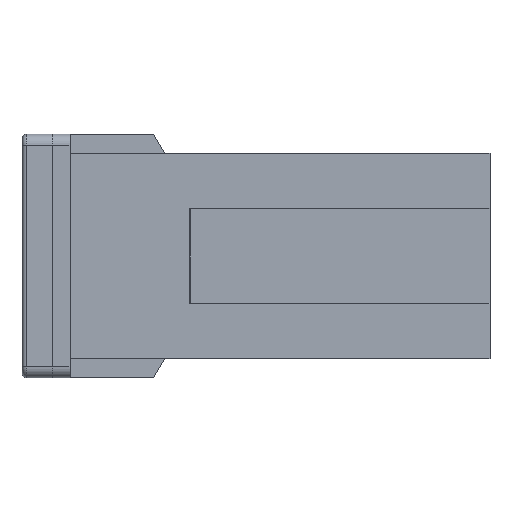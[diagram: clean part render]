
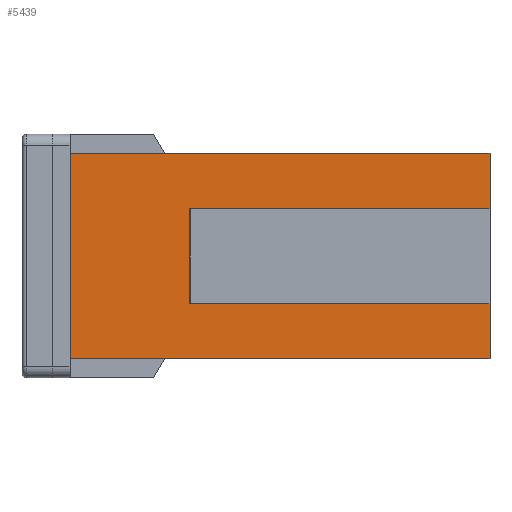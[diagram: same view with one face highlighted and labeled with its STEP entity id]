
A CAD part, left-side view. The second image highlights one B-rep face of the part: STEP entity #5439.
In plain terms, the highlighted planar face has unit normal (-1, 0, 0).
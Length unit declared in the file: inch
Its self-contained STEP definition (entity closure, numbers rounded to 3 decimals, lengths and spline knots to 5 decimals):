
#435=FACE_OUTER_BOUND('',#743,.T.);
#743=EDGE_LOOP('',(#4653,#4654,#4655,#4656,#4657,#4658,#4659,#4660));
#1208=LINE('',#8938,#1800);
#1294=LINE('',#9121,#1886);
#1298=LINE('',#9133,#1890);
#1336=LINE('',#9227,#1928);
#1424=LINE('',#9400,#2016);
#1428=LINE('',#9409,#2020);
#1429=LINE('',#9411,#2021);
#1430=LINE('',#9412,#2022);
#1800=VECTOR('',#6276,0.3937);
#1886=VECTOR('',#6422,0.3937);
#1890=VECTOR('',#6430,0.3937);
#1928=VECTOR('',#6518,0.3937);
#2016=VECTOR('',#6672,0.3937);
#2020=VECTOR('',#6680,0.3937);
#2021=VECTOR('',#6681,0.3937);
#2022=VECTOR('',#6682,0.3937);
#2404=VERTEX_POINT('',#8935);
#2405=VERTEX_POINT('',#8937);
#2471=VERTEX_POINT('',#9118);
#2472=VERTEX_POINT('',#9120);
#2477=VERTEX_POINT('',#9130);
#2478=VERTEX_POINT('',#9132);
#2564=VERTEX_POINT('',#9408);
#2565=VERTEX_POINT('',#9410);
#3045=EDGE_CURVE('',#2404,#2405,#1208,.T.);
#3136=EDGE_CURVE('',#2472,#2471,#1294,.T.);
#3142=EDGE_CURVE('',#2478,#2477,#1298,.T.);
#3190=EDGE_CURVE('',#2471,#2405,#1336,.T.);
#3278=EDGE_CURVE('',#2478,#2404,#1424,.T.);
#3282=EDGE_CURVE('',#2472,#2564,#1428,.T.);
#3283=EDGE_CURVE('',#2565,#2477,#1429,.T.);
#3284=EDGE_CURVE('',#2564,#2565,#1430,.T.);
#4653=ORIENTED_EDGE('',*,*,#3282,.F.);
#4654=ORIENTED_EDGE('',*,*,#3136,.T.);
#4655=ORIENTED_EDGE('',*,*,#3190,.T.);
#4656=ORIENTED_EDGE('',*,*,#3045,.F.);
#4657=ORIENTED_EDGE('',*,*,#3278,.F.);
#4658=ORIENTED_EDGE('',*,*,#3142,.T.);
#4659=ORIENTED_EDGE('',*,*,#3283,.F.);
#4660=ORIENTED_EDGE('',*,*,#3284,.F.);
#5179=PLANE('',#5742);
#5439=ADVANCED_FACE('',(#435),#5179,.T.);
#5742=AXIS2_PLACEMENT_3D('',#9407,#6678,#6679);
#6276=DIRECTION('',(0.,0.,1.));
#6422=DIRECTION('',(0.,0.,1.));
#6430=DIRECTION('',(0.,0.,1.));
#6518=DIRECTION('',(0.,1.,0.));
#6672=DIRECTION('',(0.,1.,0.));
#6678=DIRECTION('center_axis',(-1.,0.,0.));
#6679=DIRECTION('ref_axis',(0.,0.,1.));
#6680=DIRECTION('',(0.,1.,0.));
#6681=DIRECTION('',(0.,-1.,0.));
#6682=DIRECTION('',(0.,0.,-1.));
#8935=CARTESIAN_POINT('',(-0.19685,0.96457,-0.23622));
#8937=CARTESIAN_POINT('',(-0.19685,0.96457,0.23622));
#8938=CARTESIAN_POINT('',(-0.19685,0.96457,-0.23622));
#9118=CARTESIAN_POINT('',(-0.19685,0.,0.23622));
#9120=CARTESIAN_POINT('',(-0.19685,0.,0.10927));
#9121=CARTESIAN_POINT('',(-0.19685,0.,-0.23622));
#9130=CARTESIAN_POINT('',(-0.19685,0.,-0.10927));
#9132=CARTESIAN_POINT('',(-0.19685,0.,-0.23622));
#9133=CARTESIAN_POINT('',(-0.19685,0.,-0.23622));
#9227=CARTESIAN_POINT('',(-0.19685,0.,0.23622));
#9400=CARTESIAN_POINT('',(-0.19685,0.,-0.23622));
#9407=CARTESIAN_POINT('Origin',(-0.19685,0.,-0.23622));
#9408=CARTESIAN_POINT('',(-0.19685,0.68998,0.10927));
#9409=CARTESIAN_POINT('',(-0.19685,0.,0.10927));
#9410=CARTESIAN_POINT('',(-0.19685,0.68998,-0.10927));
#9411=CARTESIAN_POINT('',(-0.19685,0.34449,-0.10927));
#9412=CARTESIAN_POINT('',(-0.19685,0.68998,-0.06398));
